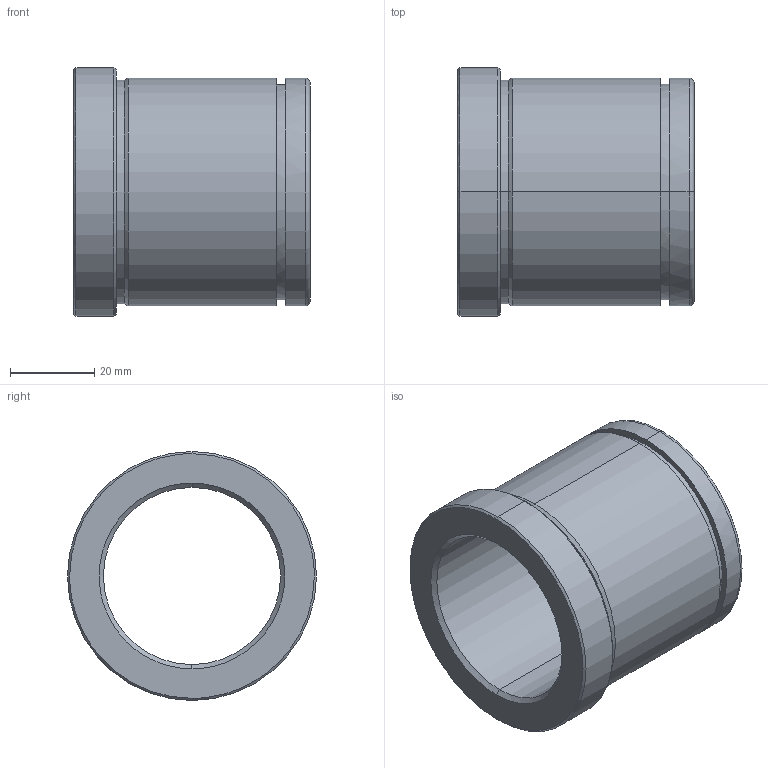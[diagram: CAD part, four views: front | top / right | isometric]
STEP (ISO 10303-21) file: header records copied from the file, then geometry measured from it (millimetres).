
FILE_DESCRIPTION(('CATIA V5 STEP Exchange'),'2;1');
FILE_NAME('C:\Users\Utente\Desktop\IO LAVORO\3D X SITO CF\X SITO\PLASTICA\553\553-42X56.stp','2021-06-08T17:55:51+00:00',('none'),('none'),'CATIA Version 5 Release 20 GA (IN-10)','CATIA V5 STEP AP203','none');
FILE_SCHEMA(('CONFIG_CONTROL_DESIGN'));
Length unit declared in the file: millimetre
Products named in the file (1): 553-42X56
Bounding box: 56 x 59 x 59 mm (x, y, z)
Volume: 54021.8 mm3; surface area: 19904.8 mm2
Topology: 1 solids, 1 shells, 29 faces, 92 edges, 68 vertices
Faces by surface type: cylinder 12, cone 8, plane 5, torus 4
Entity records: 1222 total; most frequent: CARTESIAN_POINT 368, ORIENTED_EDGE 184, DIRECTION 136, EDGE_CURVE 92, AXIS2_PLACEMENT_3D 88, VERTEX_POINT 68, CIRCLE 58, EDGE_LOOP 34
